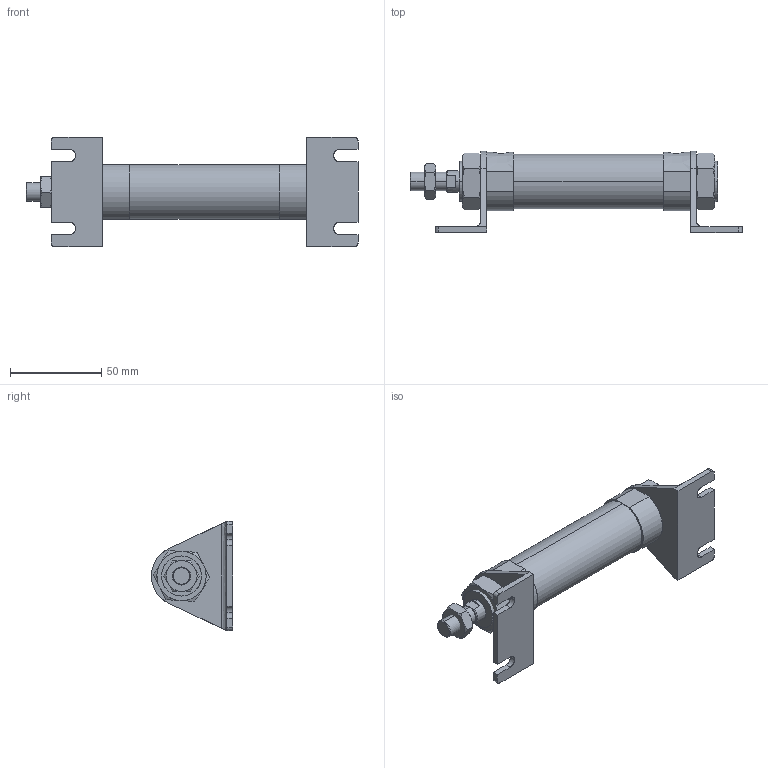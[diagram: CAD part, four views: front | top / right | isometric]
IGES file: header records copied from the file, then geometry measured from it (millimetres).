
Start section: SolidWorks IGES file using analytic representation for surfaces
Global section: file name: C:\Users\Toshiba\Desktop\J#2-25-50-L.IGS; native system: SolidWorks 2014; preprocessor: SolidWorks 2014; author: Toshiba; date: 160310.085330; units: millimetre
Bounding box: 182.2 x 44.5 x 60 mm (x, y, z)
Surface area: 34792.4 mm2 (no closed solid volume)
Topology: 0 solids, 0 shells, 171 faces, 2800 edges, 2796 vertices
Faces by surface type: bspline 111, revolution 60
